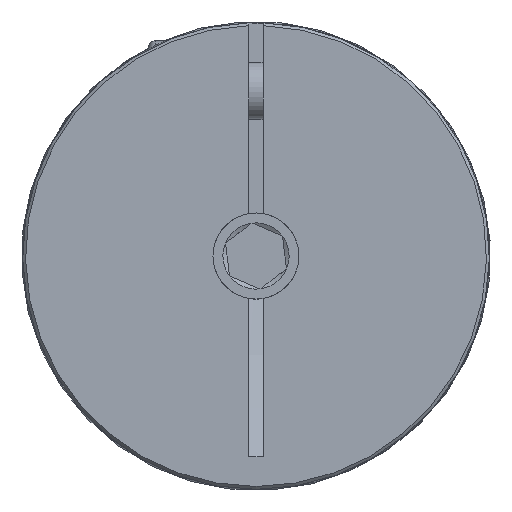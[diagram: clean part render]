
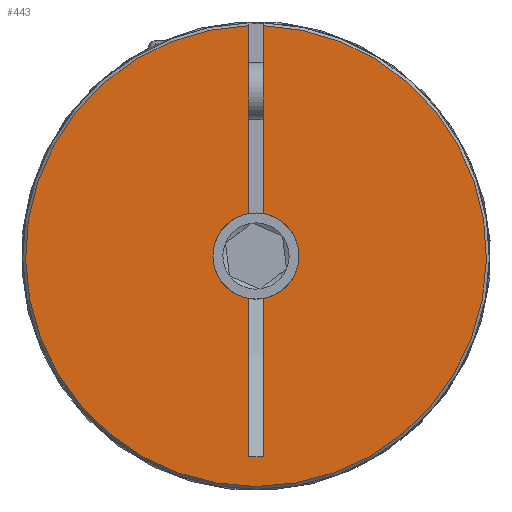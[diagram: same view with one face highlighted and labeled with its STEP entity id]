
A CAD part, left-side view. The second image highlights one B-rep face of the part: STEP entity #443.
In plain terms, the highlighted planar face has unit normal (-1, 0, 0) as drawn and (1, 0, 0) by its records, which use the part's own axes.
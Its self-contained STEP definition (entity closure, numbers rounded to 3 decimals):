
#443 = ADVANCED_FACE( '', ( #993 ), #994, .T. );
#993 = FACE_OUTER_BOUND( '', #1769, .T. );
#994 = PLANE( '', #1770 );
#1769 = EDGE_LOOP( '', ( #2720, #2721, #2722, #2723, #2724, #2725, #2726, #2727 ) );
#1770 = AXIS2_PLACEMENT_3D( '', #2728, #2729, #2730 );
#2720 = ORIENTED_EDGE( '', *, *, #4089, .F. );
#2721 = ORIENTED_EDGE( '', *, *, #4090, .T. );
#2722 = ORIENTED_EDGE( '', *, *, #4091, .T. );
#2723 = ORIENTED_EDGE( '', *, *, #4051, .T. );
#2724 = ORIENTED_EDGE( '', *, *, #4092, .T. );
#2725 = ORIENTED_EDGE( '', *, *, #3967, .T. );
#2726 = ORIENTED_EDGE( '', *, *, #4093, .F. );
#2727 = ORIENTED_EDGE( '', *, *, #4048, .T. );
#2728 = CARTESIAN_POINT( '', ( 20., 0., 16.25 ) );
#2729 = DIRECTION( '', ( 1., 0., 0. ) );
#2730 = DIRECTION( '', ( 0., 0., -1. ) );
#3967 = EDGE_CURVE( '', #4581, #4585, #4587, .F. );
#4048 = EDGE_CURVE( '', #4716, #4714, #4717, .T. );
#4051 = EDGE_CURVE( '', #4708, #4719, #4721, .T. );
#4089 = EDGE_CURVE( '', #4781, #4714, #4782, .T. );
#4090 = EDGE_CURVE( '', #4781, #4783, #4784, .T. );
#4091 = EDGE_CURVE( '', #4783, #4708, #4785, .T. );
#4092 = EDGE_CURVE( '', #4719, #4581, #4786, .T. );
#4093 = EDGE_CURVE( '', #4716, #4585, #4787, .T. );
#4581 = VERTEX_POINT( '', #5427 );
#4585 = VERTEX_POINT( '', #5434 );
#4587 = LINE( '', #5436, #5437 );
#4708 = VERTEX_POINT( '', #5575 );
#4714 = VERTEX_POINT( '', #5583 );
#4716 = VERTEX_POINT( '', #5586 );
#4717 = CIRCLE( '', #5587, 3. );
#4719 = VERTEX_POINT( '', #5590 );
#4721 = CIRCLE( '', #5593, 3. );
#4781 = VERTEX_POINT( '', #5705 );
#4782 = LINE( '', #5706, #5707 );
#4783 = VERTEX_POINT( '', #5708 );
#4784 = CIRCLE( '', #5709, 16.05 );
#4785 = LINE( '', #5710, #5711 );
#4786 = LINE( '', #5712, #5713 );
#4787 = LINE( '', #5714, #5715 );
#5427 = CARTESIAN_POINT( '', ( 20., -13.976, -0.5 ) );
#5434 = CARTESIAN_POINT( '', ( 20., -13.976, 0.5 ) );
#5436 = CARTESIAN_POINT( '', ( 20., -13.976, 0.5 ) );
#5437 = VECTOR( '', #6491, 1000. );
#5575 = CARTESIAN_POINT( '', ( 20., 2.958, -0.5 ) );
#5583 = CARTESIAN_POINT( '', ( 20., 2.958, 0.5 ) );
#5586 = CARTESIAN_POINT( '', ( 20., -2.958, 0.5 ) );
#5587 = AXIS2_PLACEMENT_3D( '', #6650, #6651, #6652 );
#5590 = CARTESIAN_POINT( '', ( 20., -2.958, -0.5 ) );
#5593 = AXIS2_PLACEMENT_3D( '', #6655, #6656, #6657 );
#5705 = CARTESIAN_POINT( '', ( 20., 16.042, 0.5 ) );
#5706 = CARTESIAN_POINT( '', ( 20., 0., 0.5 ) );
#5707 = VECTOR( '', #6712, 1000. );
#5708 = CARTESIAN_POINT( '', ( 20., 16.042, -0.5 ) );
#5709 = AXIS2_PLACEMENT_3D( '', #6713, #6714, #6715 );
#5710 = CARTESIAN_POINT( '', ( 20., 0., -0.5 ) );
#5711 = VECTOR( '', #6716, 1000. );
#5712 = CARTESIAN_POINT( '', ( 20., 0., -0.5 ) );
#5713 = VECTOR( '', #6717, 1000. );
#5714 = CARTESIAN_POINT( '', ( 20., 0., 0.5 ) );
#5715 = VECTOR( '', #6718, 1000. );
#6491 = DIRECTION( '', ( 0., 0., -1. ) );
#6650 = CARTESIAN_POINT( '', ( 20., 0., 0. ) );
#6651 = DIRECTION( '', ( -1., 0., 0. ) );
#6652 = DIRECTION( '', ( 0., 0., 1. ) );
#6655 = CARTESIAN_POINT( '', ( 20., 0., 0. ) );
#6656 = DIRECTION( '', ( -1., 0., 0. ) );
#6657 = DIRECTION( '', ( 0., 0., 1. ) );
#6712 = DIRECTION( '', ( 0., -1., 0. ) );
#6713 = CARTESIAN_POINT( '', ( 20., 0., 0. ) );
#6714 = DIRECTION( '', ( 1., 0., 0. ) );
#6715 = DIRECTION( '', ( 0., 0., -1. ) );
#6716 = DIRECTION( '', ( 0., -1., 0. ) );
#6717 = DIRECTION( '', ( 0., -1., 0. ) );
#6718 = DIRECTION( '', ( 0., -1., 0. ) );
